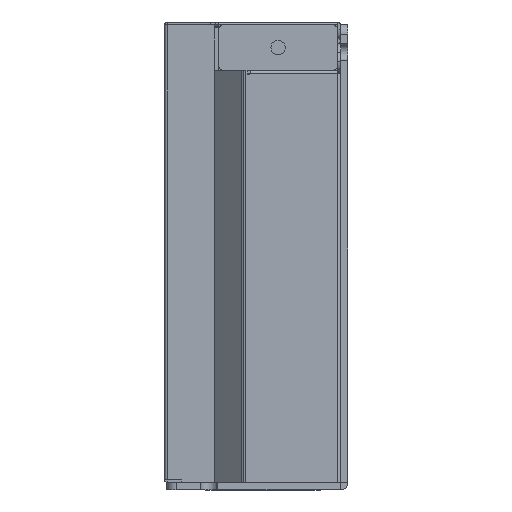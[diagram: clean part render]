
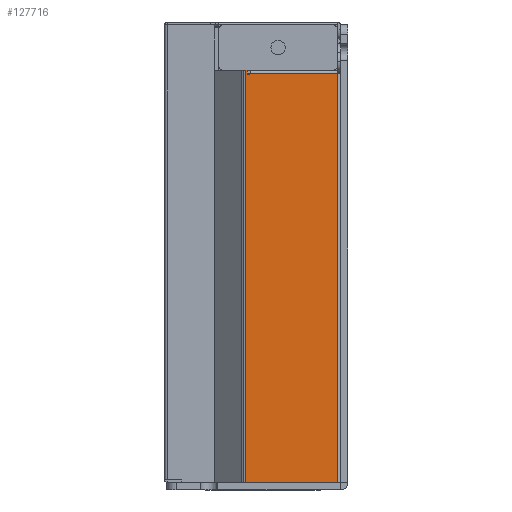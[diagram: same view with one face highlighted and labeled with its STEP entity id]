
A CAD part, left-side view. The second image highlights one B-rep face of the part: STEP entity #127716.
In plain terms, the highlighted planar face has unit normal (-1, 0, 0).
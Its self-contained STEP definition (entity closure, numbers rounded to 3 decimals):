
#59595=DIRECTION('',(0.,-1.,0.));
#59596=VECTOR('',#59595,85.5);
#59597=CARTESIAN_POINT('',(-87.45,47.65,-16.849));
#59598=LINE('',#59597,#59596);
#59617=DIRECTION('',(0.,0.,1.));
#59618=VECTOR('',#59617,19.051);
#59619=CARTESIAN_POINT('',(-87.45,47.65,-35.9));
#59620=LINE('',#59619,#59618);
#59624=DIRECTION('',(0.,0.,-1.));
#59625=VECTOR('',#59624,0.3);
#59626=CARTESIAN_POINT('',(-87.45,-37.85,-16.849));
#59627=LINE('',#59626,#59625);
#59631=DIRECTION('',(0.,1.,0.));
#59632=VECTOR('',#59631,0.6);
#59633=CARTESIAN_POINT('',(-87.45,-37.85,-17.149));
#59634=LINE('',#59633,#59632);
#59638=CARTESIAN_POINT('',(-87.45,-37.25,-17.449));
#59639=DIRECTION('',(-1.,0.,0.));
#59640=DIRECTION('',(0.,0.,1.));
#59641=AXIS2_PLACEMENT_3D('',#59638,#59639,#59640);
#59654=DIRECTION('',(0.,0.,-1.));
#59655=VECTOR('',#59654,18.151);
#59656=CARTESIAN_POINT('',(-87.45,-37.25,-17.749));
#59657=LINE('',#59656,#59655);
#60052=DIRECTION('',(0.,-1.,0.));
#60053=VECTOR('',#60052,84.9);
#60054=CARTESIAN_POINT('',(-87.45,47.65,-35.9));
#60055=LINE('',#60054,#60053);
#108862=CARTESIAN_POINT('',(-87.45,47.65,-35.9));
#108863=CARTESIAN_POINT('',(-87.45,47.65,-16.849));
#108864=VERTEX_POINT('',#108862);
#108865=VERTEX_POINT('',#108863);
#108884=CARTESIAN_POINT('',(-87.45,-37.85,-16.849));
#108885=VERTEX_POINT('',#108884);
#108888=CARTESIAN_POINT('',(-87.45,-37.85,-17.149));
#108889=CARTESIAN_POINT('',(-87.45,-37.25,-17.149));
#108890=VERTEX_POINT('',#108888);
#108891=VERTEX_POINT('',#108889);
#108892=CARTESIAN_POINT('',(-87.45,-37.25,-17.749));
#108893=VERTEX_POINT('',#108892);
#108906=CARTESIAN_POINT('',(-87.45,-37.25,-35.9));
#108907=VERTEX_POINT('',#108906);
#127697=CARTESIAN_POINT('',(-87.45,25.102,-16.6));
#127698=DIRECTION('',(1.,0.,0.));
#127699=DIRECTION('',(0.,-1.,0.));
#127700=AXIS2_PLACEMENT_3D('',#127697,#127698,#127699);
#127701=PLANE('',#127700);
#127703=ORIENTED_EDGE('',*,*,#127702,.T.);
#127705=ORIENTED_EDGE('',*,*,#127704,.F.);
#127707=ORIENTED_EDGE('',*,*,#127706,.T.);
#127708=ORIENTED_EDGE('',*,*,#127690,.T.);
#127709=ORIENTED_EDGE('',*,*,#127594,.T.);
#127711=ORIENTED_EDGE('',*,*,#127710,.T.);
#127713=ORIENTED_EDGE('',*,*,#127712,.T.);
#127714=EDGE_LOOP('',(#127703,#127705,#127707,#127708,#127709,#127711,#127713));
#127715=FACE_OUTER_BOUND('',#127714,.F.);
#59642=CIRCLE('',#59641,0.3);
#127594=EDGE_CURVE('',#108885,#108890,#59627,.T.);
#127690=EDGE_CURVE('',#108865,#108885,#59598,.T.);
#127702=EDGE_CURVE('',#108893,#108907,#59657,.T.);
#127704=EDGE_CURVE('',#108864,#108907,#60055,.T.);
#127706=EDGE_CURVE('',#108864,#108865,#59620,.T.);
#127710=EDGE_CURVE('',#108890,#108891,#59634,.T.);
#127712=EDGE_CURVE('',#108891,#108893,#59642,.T.);
#127716=ADVANCED_FACE('',(#127715),#127701,.F.);
